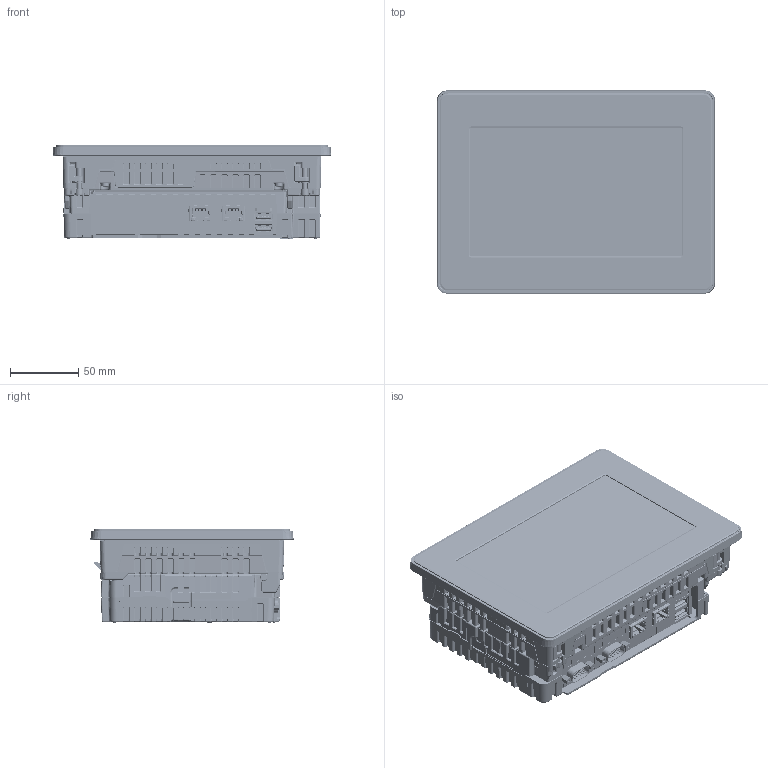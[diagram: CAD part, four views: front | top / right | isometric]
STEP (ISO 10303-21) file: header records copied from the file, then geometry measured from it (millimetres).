
FILE_DESCRIPTION((''),'2;1');
FILE_NAME('C:\Users\sesa32241\Desktop\kabuto_7w_box_assy_3d.stp','2018-11-20T13:33:48',('SESA32241'),(''),'Autodesk Inventor 2011','Autodesk Inventor 2011','');
FILE_SCHEMA(('CONFIG_CONTROL_DESIGN'));
Length unit declared in the file: millimetre
Products named in the file (1): kabuto_7w_box_assy_3d
Bounding box: 203.54 x 148.54 x 68.5 mm (x, y, z)
Volume: 1558563.8 mm3; surface area: 228893 mm2
Topology: 4 solids, 33 shells, 9828 faces, 25913 edges, 16191 vertices
Faces by surface type: plane 5691, cylinder 2670, cone 639, bspline 442, torus 215, sphere 171
Full cylindrical faces by diameter (mm): 1.02 x18, 1.2 x4, 1.5 x2, 1.6 x10, 2 x2, 2.16 x4, 2.2 x4, 2.5 x6, 3 x14, 3.5 x10, 4 x12, 5 x7, 5.6 x9, 6 x8, 6.237 x1, 14 x1
Entity records: 325754 total; most frequent: CARTESIAN_POINT 84651, ORIENTED_EDGE 51346, DIRECTION 48647, EDGE_CURVE 25673, VECTOR 18157, LINE 18157, VERTEX_POINT 16134, AXIS2_PLACEMENT_3D 15245
